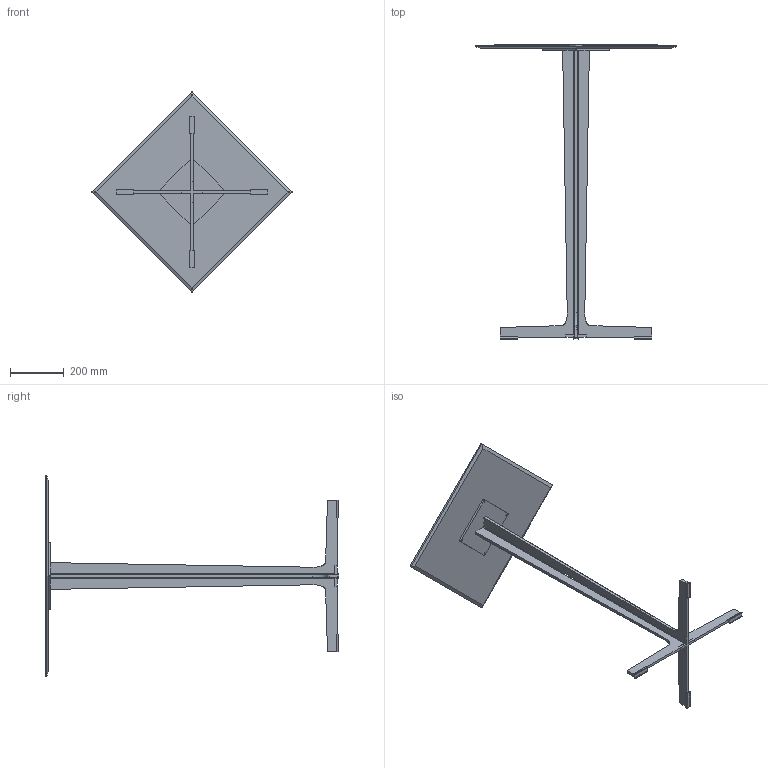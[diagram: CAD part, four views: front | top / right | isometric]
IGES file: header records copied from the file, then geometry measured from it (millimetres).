
Start section: SolidWorks IGES file using analytic representation for surfaces
Global section: file name: W:\design\CKR\spilt\IGS\53x53A.IGS; native system: SolidWorks 2010; preprocessor: SolidWorks 2010; author: PC20; date: 150212.184351; units: millimetre
Bounding box: 747.05 x 1097 x 747.05 mm (x, y, z)
Surface area: 1138015.3 mm2 (no closed solid volume)
Topology: 0 solids, 0 shells, 243 faces, 4500 edges, 5770 vertices
Faces by surface type: bspline 170, revolution 73
